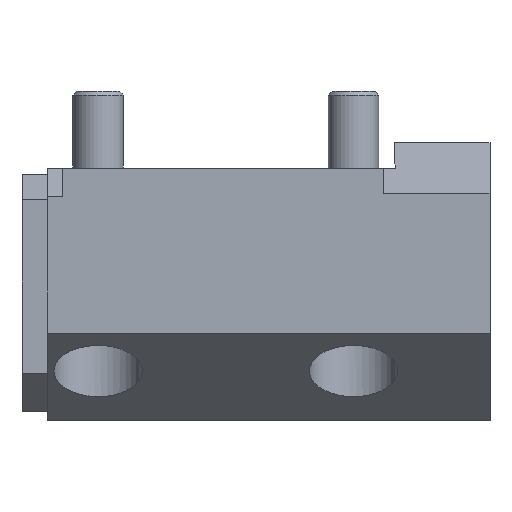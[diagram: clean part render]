
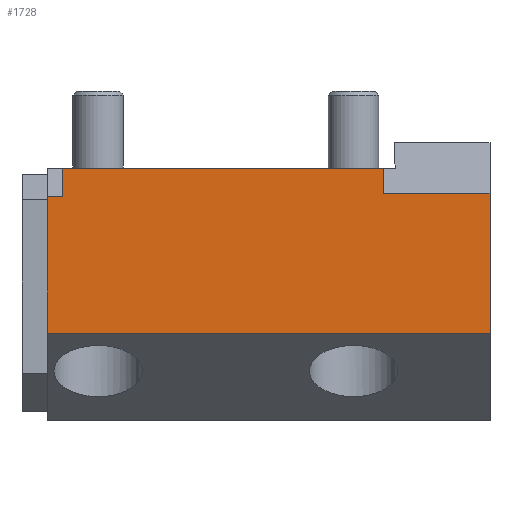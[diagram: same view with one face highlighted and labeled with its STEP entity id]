
A CAD part, front view. The second image highlights one B-rep face of the part: STEP entity #1728.
In plain terms, the highlighted planar face has unit normal (0, -1, 0).
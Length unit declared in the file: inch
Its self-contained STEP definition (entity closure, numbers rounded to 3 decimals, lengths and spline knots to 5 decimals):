
#21 = CARTESIAN_POINT ( 'NONE',  ( -0.07203, -1.77165, 0. ) ) ;
#89 = CARTESIAN_POINT ( 'NONE',  ( -2.70201, -1.77165, -1.28659 ) ) ;
#143 = VECTOR ( 'NONE', #1068, 39.37008 ) ;
#164 = CARTESIAN_POINT ( 'NONE',  ( -0.07874, -1.77165, -0.19685 ) ) ;
#267 = LINE ( 'NONE', #2457, #3399 ) ;
#286 = ORIENTED_EDGE ( 'NONE', *, *, #394, .T. ) ;
#330 = FACE_OUTER_BOUND ( 'NONE', #351, .T. ) ;
#351 = EDGE_LOOP ( 'NONE', ( #555, #641, #286, #3148, #718, #1043, #2083, #594 ) ) ;
#355 = CARTESIAN_POINT ( 'NONE',  ( -2.58386, -1.77165, -0.2236 ) ) ;
#390 = DIRECTION ( 'NONE',  ( 0., -1., 0. ) ) ;
#392 = VECTOR ( 'NONE', #2523, 39.37008 ) ;
#394 = EDGE_CURVE ( 'NONE', #946, #1385, #4000, .T. ) ;
#555 = ORIENTED_EDGE ( 'NONE', *, *, #1951, .T. ) ;
#569 = DIRECTION ( 'NONE',  ( 1., 0., 0. ) ) ;
#594 = ORIENTED_EDGE ( 'NONE', *, *, #4578, .F. ) ;
#618 = AXIS2_PLACEMENT_3D ( 'NONE', #2264, #390, #1142 ) ;
#641 = ORIENTED_EDGE ( 'NONE', *, *, #1666, .T. ) ;
#657 = VERTEX_POINT ( 'NONE', #700 ) ;
#670 = VERTEX_POINT ( 'NONE', #2167 ) ;
#700 = CARTESIAN_POINT ( 'NONE',  ( 0.74803, -1.77165, -0.19685 ) ) ;
#718 = ORIENTED_EDGE ( 'NONE', *, *, #2376, .F. ) ;
#946 = VERTEX_POINT ( 'NONE', #3480 ) ;
#961 = CARTESIAN_POINT ( 'NONE',  ( 0.74803, -1.77165, -1.9685 ) ) ;
#986 = VECTOR ( 'NONE', #4276, 39.37008 ) ;
#1016 = CARTESIAN_POINT ( 'NONE',  ( -2.58386, -1.77165, 0. ) ) ;
#1043 = ORIENTED_EDGE ( 'NONE', *, *, #4312, .T. ) ;
#1068 = DIRECTION ( 'NONE',  ( -1., 0., 0. ) ) ;
#1087 = VECTOR ( 'NONE', #4808, 39.37008 ) ;
#1142 = DIRECTION ( 'NONE',  ( -1., 0., 0. ) ) ;
#1197 = DIRECTION ( 'NONE',  ( -1., 0., 0. ) ) ;
#1256 = VERTEX_POINT ( 'NONE', #4068 ) ;
#1332 = CARTESIAN_POINT ( 'NONE',  ( -2.70197, -1.77165, 0. ) ) ;
#1360 = LINE ( 'NONE', #4891, #4580 ) ;
#1385 = VERTEX_POINT ( 'NONE', #2289 ) ;
#1398 = DIRECTION ( 'NONE',  ( 0., 0., 1. ) ) ;
#1434 = EDGE_CURVE ( 'NONE', #1256, #4213, #4603, .T. ) ;
#1609 = EDGE_CURVE ( 'NONE', #1385, #657, #1972, .T. ) ;
#1666 = EDGE_CURVE ( 'NONE', #670, #946, #2828, .T. ) ;
#1728 = ADVANCED_FACE ( 'NONE', ( #330 ), #4533, .T. ) ;
#1730 = VERTEX_POINT ( 'NONE', #355 ) ;
#1747 = VECTOR ( 'NONE', #3125, 39.37008 ) ;
#1951 = EDGE_CURVE ( 'NONE', #1730, #670, #4163, .T. ) ;
#1972 = LINE ( 'NONE', #961, #392 ) ;
#2083 = ORIENTED_EDGE ( 'NONE', *, *, #1434, .T. ) ;
#2167 = CARTESIAN_POINT ( 'NONE',  ( -2.70197, -1.77165, -0.2236 ) ) ;
#2264 = CARTESIAN_POINT ( 'NONE',  ( 0., -1.77165, 0.01 ) ) ;
#2289 = CARTESIAN_POINT ( 'NONE',  ( 0.74803, -1.77165, -1.28659 ) ) ;
#2376 = EDGE_CURVE ( 'NONE', #4154, #657, #267, .T. ) ;
#2457 = CARTESIAN_POINT ( 'NONE',  ( -0.07874, -1.77165, -0.19685 ) ) ;
#2523 = DIRECTION ( 'NONE',  ( 0., 0., 1. ) ) ;
#2828 = LINE ( 'NONE', #1332, #1087 ) ;
#2942 = VECTOR ( 'NONE', #1197, 39.37008 ) ;
#3125 = DIRECTION ( 'NONE',  ( 1., 0., 0. ) ) ;
#3148 = ORIENTED_EDGE ( 'NONE', *, *, #1609, .T. ) ;
#3399 = VECTOR ( 'NONE', #569, 39.37008 ) ;
#3480 = CARTESIAN_POINT ( 'NONE',  ( -2.70197, -1.77165, -1.28659 ) ) ;
#4000 = LINE ( 'NONE', #89, #1747 ) ;
#4060 = LINE ( 'NONE', #4235, #986 ) ;
#4068 = CARTESIAN_POINT ( 'NONE',  ( -0.07874, -1.77165, 0. ) ) ;
#4154 = VERTEX_POINT ( 'NONE', #164 ) ;
#4163 = LINE ( 'NONE', #4514, #143 ) ;
#4213 = VERTEX_POINT ( 'NONE', #1016 ) ;
#4235 = CARTESIAN_POINT ( 'NONE',  ( -2.58386, -1.77165, -0.2236 ) ) ;
#4276 = DIRECTION ( 'NONE',  ( 0., 0., 1. ) ) ;
#4312 = EDGE_CURVE ( 'NONE', #4154, #1256, #1360, .T. ) ;
#4514 = CARTESIAN_POINT ( 'NONE',  ( -2.58386, -1.77165, -0.2236 ) ) ;
#4533 = PLANE ( 'NONE',  #618 ) ;
#4578 = EDGE_CURVE ( 'NONE', #1730, #4213, #4060, .T. ) ;
#4580 = VECTOR ( 'NONE', #1398, 39.37008 ) ;
#4603 = LINE ( 'NONE', #21, #2942 ) ;
#4808 = DIRECTION ( 'NONE',  ( 0., 0., -1. ) ) ;
#4891 = CARTESIAN_POINT ( 'NONE',  ( -0.07874, -1.77165, 0.01 ) ) ;
